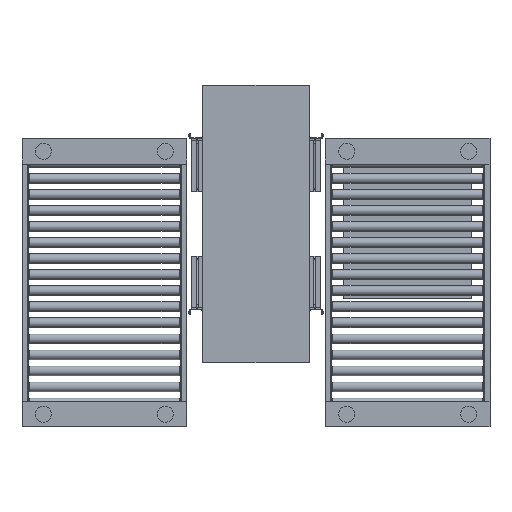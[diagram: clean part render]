
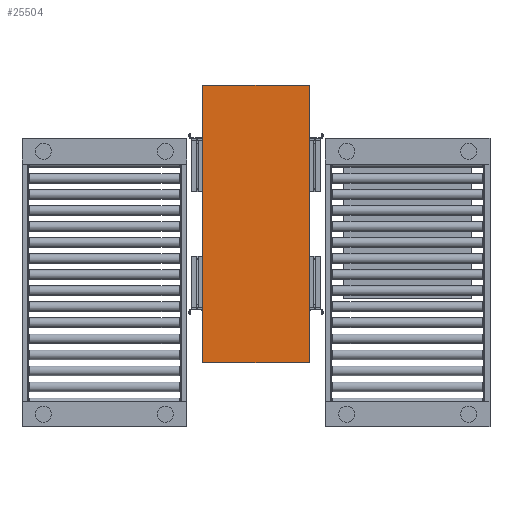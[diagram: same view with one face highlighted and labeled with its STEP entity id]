
A CAD part, front view. The second image highlights one B-rep face of the part: STEP entity #25504.
In plain terms, the highlighted planar face has unit normal (0, -1, 0).
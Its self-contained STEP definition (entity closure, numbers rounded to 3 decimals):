
#2177 = VERTEX_POINT ( 'NONE', #51383 ) ;
#2735 = LINE ( 'NONE', #8876, #36280 ) ;
#3569 = CARTESIAN_POINT ( 'NONE',  ( 0., 0., 0. ) ) ;
#3805 = ORIENTED_EDGE ( 'NONE', *, *, #7296, .F. ) ;
#5883 = EDGE_CURVE ( 'NONE', #2177, #44358, #2735, .T. ) ;
#7296 = EDGE_CURVE ( 'NONE', #44358, #33567, #9813, .T. ) ;
#8539 = VECTOR ( 'NONE', #29197, 1000. ) ;
#8876 = CARTESIAN_POINT ( 'NONE',  ( 0., 0., 0. ) ) ;
#9153 = LINE ( 'NONE', #3569, #25004 ) ;
#9813 = LINE ( 'NONE', #45235, #8539 ) ;
#20270 = VERTEX_POINT ( 'NONE', #21870 ) ;
#21870 = CARTESIAN_POINT ( 'NONE',  ( 0., 0., -1300. ) ) ;
#23094 = DIRECTION ( 'NONE',  ( 0., -1., 0. ) ) ;
#23460 = DIRECTION ( 'NONE',  ( 0., 0., -1. ) ) ;
#25004 = VECTOR ( 'NONE', #48264, 1000. ) ;
#25504 = ADVANCED_FACE ( 'NONE', ( #35556 ), #51298, .T. ) ;
#29197 = DIRECTION ( 'NONE',  ( 0., 0., -1. ) ) ;
#30362 = EDGE_CURVE ( 'NONE', #20270, #2177, #9153, .T. ) ;
#30866 = ORIENTED_EDGE ( 'NONE', *, *, #5883, .F. ) ;
#32002 = CARTESIAN_POINT ( 'NONE',  ( 500., 0., 0. ) ) ;
#33565 = ORIENTED_EDGE ( 'NONE', *, *, #30362, .F. ) ;
#33567 = VERTEX_POINT ( 'NONE', #48001 ) ;
#35556 = FACE_OUTER_BOUND ( 'NONE', #51819, .T. ) ;
#36280 = VECTOR ( 'NONE', #45413, 1000. ) ;
#37089 = VECTOR ( 'NONE', #45274, 1000. ) ;
#39939 = CARTESIAN_POINT ( 'NONE',  ( 0., 0., -1300. ) ) ;
#43249 = AXIS2_PLACEMENT_3D ( 'NONE', #47779, #23094, #23460 ) ;
#43450 = EDGE_CURVE ( 'NONE', #33567, #20270, #47815, .T. ) ;
#43513 = ORIENTED_EDGE ( 'NONE', *, *, #43450, .F. ) ;
#44358 = VERTEX_POINT ( 'NONE', #32002 ) ;
#45235 = CARTESIAN_POINT ( 'NONE',  ( 500., 0., 0. ) ) ;
#45274 = DIRECTION ( 'NONE',  ( -1., 0., 0. ) ) ;
#45413 = DIRECTION ( 'NONE',  ( 1., 0., 0. ) ) ;
#47779 = CARTESIAN_POINT ( 'NONE',  ( 0., 0., 0. ) ) ;
#47815 = LINE ( 'NONE', #39939, #37089 ) ;
#48001 = CARTESIAN_POINT ( 'NONE',  ( 500., 0., -1300. ) ) ;
#48264 = DIRECTION ( 'NONE',  ( 0., 0., 1. ) ) ;
#51298 = PLANE ( 'NONE',  #43249 ) ;
#51383 = CARTESIAN_POINT ( 'NONE',  ( 0., 0., 0. ) ) ;
#51819 = EDGE_LOOP ( 'NONE', ( #33565, #43513, #3805, #30866 ) ) ;
